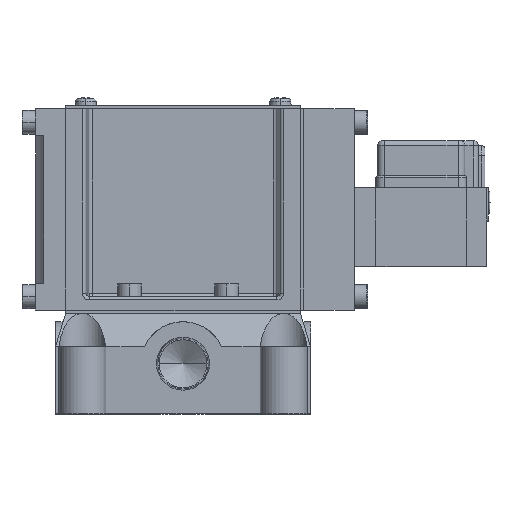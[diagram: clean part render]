
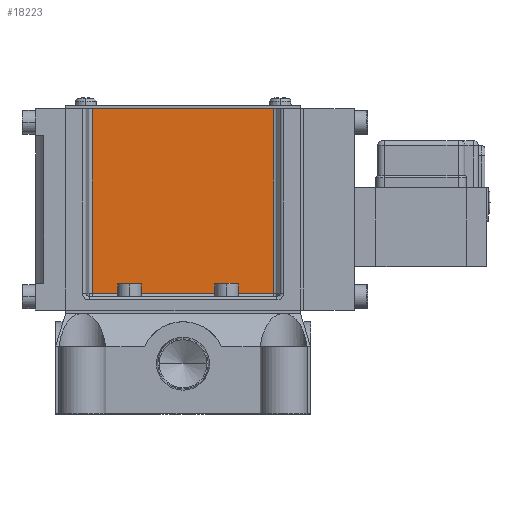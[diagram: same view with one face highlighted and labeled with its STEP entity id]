
A CAD part, top view. The second image highlights one B-rep face of the part: STEP entity #18223.
In plain terms, the highlighted planar face has unit normal (0, 0, 1).
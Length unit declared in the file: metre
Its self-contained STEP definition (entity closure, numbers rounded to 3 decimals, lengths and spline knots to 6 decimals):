
#120 = EDGE_LOOP ( 'NONE', ( #13540, #17712, #485, #7514 ) ) ;
#407 = CARTESIAN_POINT ( 'NONE',  ( -0.0271, 0.0635, 0.017 ) ) ;
#436 = DIRECTION ( 'NONE',  ( 0., -1., 0. ) ) ;
#485 = ORIENTED_EDGE ( 'NONE', *, *, #11130, .T. ) ;
#1832 = VERTEX_POINT ( 'NONE', #6910 ) ;
#1845 = VECTOR ( 'NONE', #13225, 1. ) ;
#2082 = LINE ( 'NONE', #9565, #13068 ) ;
#2267 = CARTESIAN_POINT ( 'NONE',  ( -0.0271, 0.036, 0.017 ) ) ;
#3146 = LINE ( 'NONE', #407, #18160 ) ;
#5432 = VERTEX_POINT ( 'NONE', #2267 ) ;
#5478 = LINE ( 'NONE', #10230, #1845 ) ;
#6549 = VERTEX_POINT ( 'NONE', #12147 ) ;
#6831 = VERTEX_POINT ( 'NONE', #9254 ) ;
#6910 = CARTESIAN_POINT ( 'NONE',  ( 0.0271, 0.091, 0.017 ) ) ;
#7514 = ORIENTED_EDGE ( 'NONE', *, *, #12537, .T. ) ;
#8285 = LINE ( 'NONE', #10055, #11281 ) ;
#8816 = DIRECTION ( 'NONE',  ( 1., 0., 0. ) ) ;
#8837 = DIRECTION ( 'NONE',  ( 0., 0., 1. ) ) ;
#8965 = PLANE ( 'NONE',  #14892 ) ;
#9032 = FACE_OUTER_BOUND ( 'NONE', #120, .T. ) ;
#9254 = CARTESIAN_POINT ( 'NONE',  ( 0.0271, 0.036, 0.017 ) ) ;
#9337 = CARTESIAN_POINT ( 'NONE',  ( -0.0271, 0.036, 0.017 ) ) ;
#9539 = DIRECTION ( 'NONE',  ( 0., 1., 0. ) ) ;
#9565 = CARTESIAN_POINT ( 'NONE',  ( 0.0271, 0.0635, 0.017 ) ) ;
#9966 = DIRECTION ( 'NONE',  ( 1., 0., 0. ) ) ;
#10055 = CARTESIAN_POINT ( 'NONE',  ( 0., 0.036, 0.017 ) ) ;
#10230 = CARTESIAN_POINT ( 'NONE',  ( 0., 0.091, 0.017 ) ) ;
#11130 = EDGE_CURVE ( 'NONE', #5432, #6831, #8285, .T. ) ;
#11281 = VECTOR ( 'NONE', #9966, 1. ) ;
#12147 = CARTESIAN_POINT ( 'NONE',  ( -0.0271, 0.091, 0.017 ) ) ;
#12537 = EDGE_CURVE ( 'NONE', #6831, #1832, #2082, .T. ) ;
#12764 = EDGE_CURVE ( 'NONE', #6549, #5432, #3146, .T. ) ;
#13068 = VECTOR ( 'NONE', #9539, 1. ) ;
#13225 = DIRECTION ( 'NONE',  ( 1., 0., 0. ) ) ;
#13540 = ORIENTED_EDGE ( 'NONE', *, *, #17947, .F. ) ;
#14892 = AXIS2_PLACEMENT_3D ( 'NONE', #9337, #8837, #8816 ) ;
#17712 = ORIENTED_EDGE ( 'NONE', *, *, #12764, .T. ) ;
#17947 = EDGE_CURVE ( 'NONE', #6549, #1832, #5478, .T. ) ;
#18160 = VECTOR ( 'NONE', #436, 1. ) ;
#18223 = ADVANCED_FACE ( 'NONE', ( #9032 ), #8965, .T. ) ;
